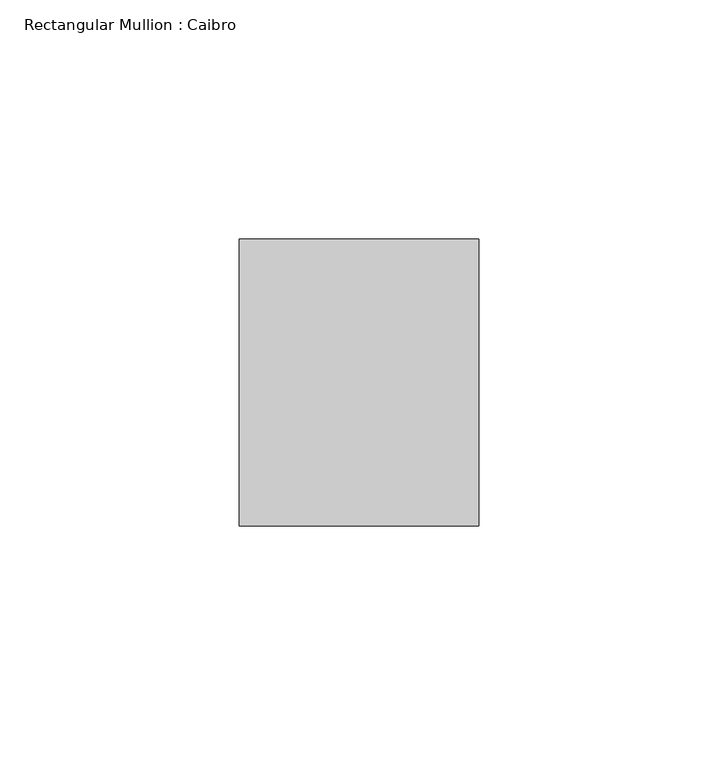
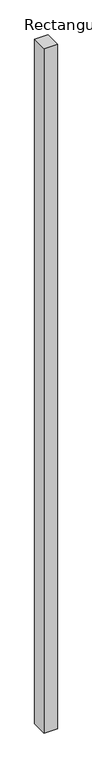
"""IFC4 building model written with IfcOpenShell, lengths in millimetres: member geometry, Rectangular Mullion : Caibro."""

from ifc_helpers import new_model, si_unit, frame, origin, place, context, project, spatial, polyline, outline, extrude, source, transform, mapped, element, save


def rectangular_mullion_caibro_74147231(model_context):
    return source(origin(), model_context, "Body", "SweptSolid", [
        extrude(outline(polyline([(0.0, -60.0), (-50.0, -60.0), (-50.0, 0.0), (0.0, 0.0), (0.0, -60.0)])), frame((0.0, 0.0, -2710.5804586), z_axis=(0.0, 0.0, 1.0), x_axis=(1.0, 0.0, 0.0)), (0.0, 0.0, 1.0), 2710.5804586),
    ])


if __name__ == "__main__":
    model = new_model("IFC4")
    model_context = context("Model", 3, world=origin())
    ifc_project = project(units=[si_unit("LENGTHUNIT", "METRE", prefix="MILLI")], contexts=[model_context])
    site = spatial("IfcSite", under=ifc_project)
    building = spatial("IfcBuilding", under=site)
    placement = place(None, origin())
    rectangular_mullion_caibro_shape = rectangular_mullion_caibro_74147231(model_context)
    element("IfcMember", 1, ObjectType="Rectangular Mullion : Caibro", at=placement, inside=building, context=model_context, shape_type="MappedRepresentation", body=[
        mapped(rectangular_mullion_caibro_shape, transform((0.0, 0.0, 0.0), x_axis=(1.0, 0.0, 0.0), y_axis=(0.0, 1.0, 0.0), z_axis=(0.0, 0.0, 1.0))),
    ])
    save(model, "model.ifc")
